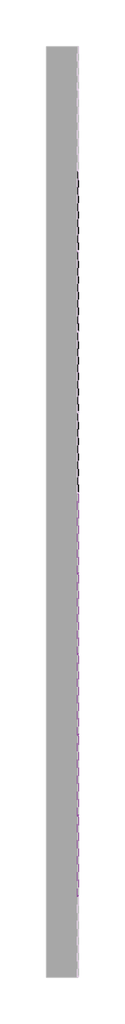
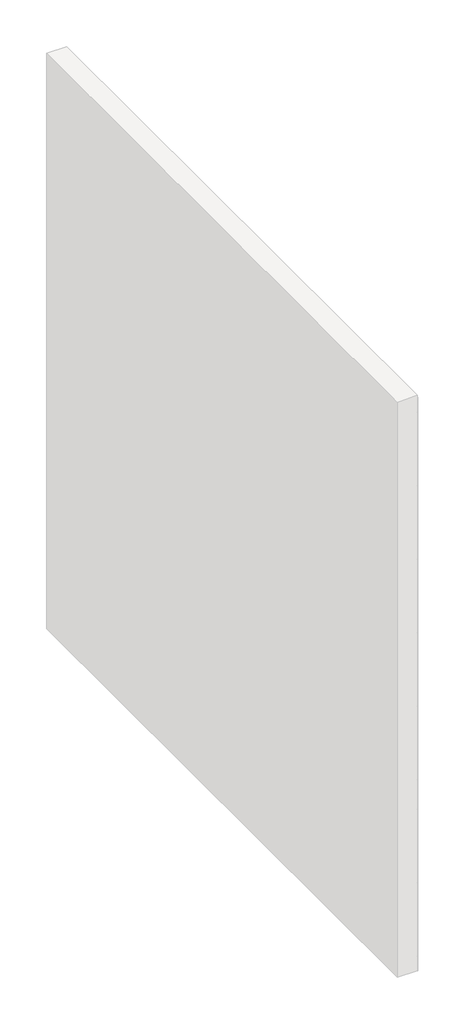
# One storey, part 6 of 45: 147 proxies.
"""IFC4 building model written with IfcOpenShell, lengths in millimetres."""

from ifc_helpers import new_model, si_unit, origin, place, context, project, spatial, transform, mapped, element, save
from components import generic_models_ab0f2c30

model = new_model("IFC4")

# Units and contexts
model_context = context("Model", 3, world=origin())
ifc_project = project(units=[si_unit("LENGTHUNIT", "METRE", prefix="MILLI")], contexts=[model_context])

# Site, building, storey
site = spatial("IfcSite", under=ifc_project)
building = spatial("IfcBuilding", under=site)
storey = spatial("IfcBuildingStorey", under=building, Name="PORTOBELLO - SHOWROOM", Elevation=0.0)

# Proxies
placement = place(None, origin())
generic_models_shape = generic_models_ab0f2c30(model_context)
element("IfcBuildingElementProxy", 1, Name="PBSHOP - HORIZONTES NEW YORK 6,5X23 : NEW YORK DOWNTOWN", ObjectType="PBSHOP - HORIZONTES NEW YORK 6,5X23 : NEW YORK DOWNTOWN", at=placement, inside=storey, context=model_context, shape_type="MappedRepresentation", body=[
    mapped(generic_models_shape, transform((63939.1036979, 7202.0036359, 34.5), x_axis=(0.0, 0.0, 1.0), y_axis=(0.0, -1.0, 0.0), z_axis=(1.0, 0.0, 0.0))),
])
element("IfcBuildingElementProxy", 2, Name="PBSHOP - HORIZONTES NEW YORK 6,5X23 : NEW YORK DOWNTOWN", ObjectType="PBSHOP - HORIZONTES NEW YORK 6,5X23 : NEW YORK DOWNTOWN", at=placement, inside=storey, context=model_context, shape_type="MappedRepresentation", body=[
    mapped(generic_models_shape, transform((63939.1036979, 7436.0036359, 34.5), x_axis=(0.0, 0.0, 1.0), y_axis=(0.0, -1.0, 0.0), z_axis=(1.0, 0.0, 0.0))),
])
element("IfcBuildingElementProxy", 3, Name="PBSHOP - HORIZONTES NEW YORK 6,5X23 : NEW YORK DOWNTOWN", ObjectType="PBSHOP - HORIZONTES NEW YORK 6,5X23 : NEW YORK DOWNTOWN", at=placement, inside=storey, context=model_context, shape_type="MappedRepresentation", body=[
    mapped(generic_models_shape, transform((63939.1036979, 7670.0036359, 34.5), x_axis=(0.0, 0.0, 1.0), y_axis=(0.0, -1.0, 0.0), z_axis=(1.0, 0.0, 0.0))),
])
element("IfcBuildingElementProxy", 4, Name="PBSHOP - HORIZONTES NEW YORK 6,5X23 : NEW YORK DOWNTOWN", ObjectType="PBSHOP - HORIZONTES NEW YORK 6,5X23 : NEW YORK DOWNTOWN", at=placement, inside=storey, context=model_context, shape_type="MappedRepresentation", body=[
    mapped(generic_models_shape, transform((63939.1036979, 7904.0036359, 34.5), x_axis=(0.0, 0.0, 1.0), y_axis=(0.0, -1.0, 0.0), z_axis=(1.0, 0.0, 0.0))),
])
element("IfcBuildingElementProxy", 5, Name="PBSHOP - HORIZONTES NEW YORK 6,5X23 : NEW YORK DOWNTOWN", ObjectType="PBSHOP - HORIZONTES NEW YORK 6,5X23 : NEW YORK DOWNTOWN", at=placement, inside=storey, context=model_context, shape_type="MappedRepresentation", body=[
    mapped(generic_models_shape, transform((63939.1036979, 7202.0036359, 103.5), x_axis=(0.0, 0.0, 1.0), y_axis=(0.0, -1.0, 0.0), z_axis=(1.0, 0.0, 0.0))),
])
element("IfcBuildingElementProxy", 6, Name="PBSHOP - HORIZONTES NEW YORK 6,5X23 : NEW YORK DOWNTOWN", ObjectType="PBSHOP - HORIZONTES NEW YORK 6,5X23 : NEW YORK DOWNTOWN", at=placement, inside=storey, context=model_context, shape_type="MappedRepresentation", body=[
    mapped(generic_models_shape, transform((63939.1036979, 7436.0036359, 103.5), x_axis=(0.0, 0.0, 1.0), y_axis=(0.0, -1.0, 0.0), z_axis=(1.0, 0.0, 0.0))),
])
element("IfcBuildingElementProxy", 7, Name="PBSHOP - HORIZONTES NEW YORK 6,5X23 : NEW YORK DOWNTOWN", ObjectType="PBSHOP - HORIZONTES NEW YORK 6,5X23 : NEW YORK DOWNTOWN", at=placement, inside=storey, context=model_context, shape_type="MappedRepresentation", body=[
    mapped(generic_models_shape, transform((63939.1036979, 7670.0036359, 103.5), x_axis=(0.0, 0.0, 1.0), y_axis=(0.0, -1.0, 0.0), z_axis=(1.0, 0.0, 0.0))),
])
element("IfcBuildingElementProxy", 8, Name="PBSHOP - HORIZONTES NEW YORK 6,5X23 : NEW YORK DOWNTOWN", ObjectType="PBSHOP - HORIZONTES NEW YORK 6,5X23 : NEW YORK DOWNTOWN", at=placement, inside=storey, context=model_context, shape_type="MappedRepresentation", body=[
    mapped(generic_models_shape, transform((63939.1036979, 7904.0036359, 103.5), x_axis=(0.0, 0.0, 1.0), y_axis=(0.0, -1.0, 0.0), z_axis=(1.0, 0.0, 0.0))),
])
element("IfcBuildingElementProxy", 9, Name="PBSHOP - HORIZONTES NEW YORK 6,5X23 : NEW YORK DOWNTOWN", ObjectType="PBSHOP - HORIZONTES NEW YORK 6,5X23 : NEW YORK DOWNTOWN", at=placement, inside=storey, context=model_context, shape_type="MappedRepresentation", body=[
    mapped(generic_models_shape, transform((63939.1036979, 7202.0036359, 172.5), x_axis=(0.0, 0.0, 1.0), y_axis=(0.0, -1.0, 0.0), z_axis=(1.0, 0.0, 0.0))),
])
element("IfcBuildingElementProxy", 10, Name="PBSHOP - HORIZONTES NEW YORK 6,5X23 : NEW YORK DOWNTOWN", ObjectType="PBSHOP - HORIZONTES NEW YORK 6,5X23 : NEW YORK DOWNTOWN", at=placement, inside=storey, context=model_context, shape_type="MappedRepresentation", body=[
    mapped(generic_models_shape, transform((63939.1036979, 7436.0036359, 172.5), x_axis=(0.0, 0.0, 1.0), y_axis=(0.0, -1.0, 0.0), z_axis=(1.0, 0.0, 0.0))),
])
element("IfcBuildingElementProxy", 11, Name="PBSHOP - HORIZONTES NEW YORK 6,5X23 : NEW YORK DOWNTOWN", ObjectType="PBSHOP - HORIZONTES NEW YORK 6,5X23 : NEW YORK DOWNTOWN", at=placement, inside=storey, context=model_context, shape_type="MappedRepresentation", body=[
    mapped(generic_models_shape, transform((63939.1036979, 7670.0036359, 172.5), x_axis=(0.0, 0.0, 1.0), y_axis=(0.0, -1.0, 0.0), z_axis=(1.0, 0.0, 0.0))),
])
element("IfcBuildingElementProxy", 12, Name="PBSHOP - HORIZONTES NEW YORK 6,5X23 : NEW YORK DOWNTOWN", ObjectType="PBSHOP - HORIZONTES NEW YORK 6,5X23 : NEW YORK DOWNTOWN", at=placement, inside=storey, context=model_context, shape_type="MappedRepresentation", body=[
    mapped(generic_models_shape, transform((63939.1036979, 7904.0036359, 172.5), x_axis=(0.0, 0.0, 1.0), y_axis=(0.0, -1.0, 0.0), z_axis=(1.0, 0.0, 0.0))),
])
element("IfcBuildingElementProxy", 13, Name="PBSHOP - HORIZONTES NEW YORK 6,5X23 : NEW YORK DOWNTOWN", ObjectType="PBSHOP - HORIZONTES NEW YORK 6,5X23 : NEW YORK DOWNTOWN", at=placement, inside=storey, context=model_context, shape_type="MappedRepresentation", body=[
    mapped(generic_models_shape, transform((63939.1036979, 7202.0036359, 241.5), x_axis=(0.0, 0.0, 1.0), y_axis=(0.0, -1.0, 0.0), z_axis=(1.0, 0.0, 0.0))),
])
element("IfcBuildingElementProxy", 14, Name="PBSHOP - HORIZONTES NEW YORK 6,5X23 : NEW YORK DOWNTOWN", ObjectType="PBSHOP - HORIZONTES NEW YORK 6,5X23 : NEW YORK DOWNTOWN", at=placement, inside=storey, context=model_context, shape_type="MappedRepresentation", body=[
    mapped(generic_models_shape, transform((63939.1036979, 7436.0036359, 241.5), x_axis=(0.0, 0.0, 1.0), y_axis=(0.0, -1.0, 0.0), z_axis=(1.0, 0.0, 0.0))),
])
element("IfcBuildingElementProxy", 15, Name="PBSHOP - HORIZONTES NEW YORK 6,5X23 : NEW YORK DOWNTOWN", ObjectType="PBSHOP - HORIZONTES NEW YORK 6,5X23 : NEW YORK DOWNTOWN", at=placement, inside=storey, context=model_context, shape_type="MappedRepresentation", body=[
    mapped(generic_models_shape, transform((63939.1036979, 7670.0036359, 241.5), x_axis=(0.0, 0.0, 1.0), y_axis=(0.0, -1.0, 0.0), z_axis=(1.0, 0.0, 0.0))),
])
element("IfcBuildingElementProxy", 16, Name="PBSHOP - HORIZONTES NEW YORK 6,5X23 : NEW YORK DOWNTOWN", ObjectType="PBSHOP - HORIZONTES NEW YORK 6,5X23 : NEW YORK DOWNTOWN", at=placement, inside=storey, context=model_context, shape_type="MappedRepresentation", body=[
    mapped(generic_models_shape, transform((63939.1036979, 7904.0036359, 241.5), x_axis=(0.0, 0.0, 1.0), y_axis=(0.0, -1.0, 0.0), z_axis=(1.0, 0.0, 0.0))),
])
element("IfcBuildingElementProxy", 17, Name="PBSHOP - HORIZONTES NEW YORK 6,5X23 : NEW YORK DOWNTOWN", ObjectType="PBSHOP - HORIZONTES NEW YORK 6,5X23 : NEW YORK DOWNTOWN", at=placement, inside=storey, context=model_context, shape_type="MappedRepresentation", body=[
    mapped(generic_models_shape, transform((63939.1036979, 7202.0036359, 310.5), x_axis=(0.0, 0.0, 1.0), y_axis=(0.0, -1.0, 0.0), z_axis=(1.0, 0.0, 0.0))),
])
element("IfcBuildingElementProxy", 18, Name="PBSHOP - HORIZONTES NEW YORK 6,5X23 : NEW YORK DOWNTOWN", ObjectType="PBSHOP - HORIZONTES NEW YORK 6,5X23 : NEW YORK DOWNTOWN", at=placement, inside=storey, context=model_context, shape_type="MappedRepresentation", body=[
    mapped(generic_models_shape, transform((63939.1036979, 7436.0036359, 310.5), x_axis=(0.0, 0.0, 1.0), y_axis=(0.0, -1.0, 0.0), z_axis=(1.0, 0.0, 0.0))),
])
element("IfcBuildingElementProxy", 19, Name="PBSHOP - HORIZONTES NEW YORK 6,5X23 : NEW YORK DOWNTOWN", ObjectType="PBSHOP - HORIZONTES NEW YORK 6,5X23 : NEW YORK DOWNTOWN", at=placement, inside=storey, context=model_context, shape_type="MappedRepresentation", body=[
    mapped(generic_models_shape, transform((63939.1036979, 7670.0036359, 310.5), x_axis=(0.0, 0.0, 1.0), y_axis=(0.0, -1.0, 0.0), z_axis=(1.0, 0.0, 0.0))),
])
element("IfcBuildingElementProxy", 20, Name="PBSHOP - HORIZONTES NEW YORK 6,5X23 : NEW YORK DOWNTOWN", ObjectType="PBSHOP - HORIZONTES NEW YORK 6,5X23 : NEW YORK DOWNTOWN", at=placement, inside=storey, context=model_context, shape_type="MappedRepresentation", body=[
    mapped(generic_models_shape, transform((63939.1036979, 7904.0036359, 310.5), x_axis=(0.0, 0.0, 1.0), y_axis=(0.0, -1.0, 0.0), z_axis=(1.0, 0.0, 0.0))),
])
element("IfcBuildingElementProxy", 21, Name="PBSHOP - HORIZONTES NEW YORK 6,5X23 : NEW YORK DOWNTOWN", ObjectType="PBSHOP - HORIZONTES NEW YORK 6,5X23 : NEW YORK DOWNTOWN", at=placement, inside=storey, context=model_context, shape_type="MappedRepresentation", body=[
    mapped(generic_models_shape, transform((63939.1036979, 7202.0036359, 379.5), x_axis=(0.0, 0.0, 1.0), y_axis=(0.0, -1.0, 0.0), z_axis=(1.0, 0.0, 0.0))),
])
element("IfcBuildingElementProxy", 22, Name="PBSHOP - HORIZONTES NEW YORK 6,5X23 : NEW YORK DOWNTOWN", ObjectType="PBSHOP - HORIZONTES NEW YORK 6,5X23 : NEW YORK DOWNTOWN", at=placement, inside=storey, context=model_context, shape_type="MappedRepresentation", body=[
    mapped(generic_models_shape, transform((63939.1036979, 7436.0036359, 379.5), x_axis=(0.0, 0.0, 1.0), y_axis=(0.0, -1.0, 0.0), z_axis=(1.0, 0.0, 0.0))),
])
element("IfcBuildingElementProxy", 23, Name="PBSHOP - HORIZONTES NEW YORK 6,5X23 : NEW YORK DOWNTOWN", ObjectType="PBSHOP - HORIZONTES NEW YORK 6,5X23 : NEW YORK DOWNTOWN", at=placement, inside=storey, context=model_context, shape_type="MappedRepresentation", body=[
    mapped(generic_models_shape, transform((63939.1036979, 7670.0036359, 379.5), x_axis=(0.0, 0.0, 1.0), y_axis=(0.0, -1.0, 0.0), z_axis=(1.0, 0.0, 0.0))),
])
element("IfcBuildingElementProxy", 24, Name="PBSHOP - HORIZONTES NEW YORK 6,5X23 : NEW YORK DOWNTOWN", ObjectType="PBSHOP - HORIZONTES NEW YORK 6,5X23 : NEW YORK DOWNTOWN", at=placement, inside=storey, context=model_context, shape_type="MappedRepresentation", body=[
    mapped(generic_models_shape, transform((63939.1036979, 7904.0036359, 379.5), x_axis=(0.0, 0.0, 1.0), y_axis=(0.0, -1.0, 0.0), z_axis=(1.0, 0.0, 0.0))),
])
element("IfcBuildingElementProxy", 25, Name="PBSHOP - HORIZONTES NEW YORK 6,5X23 : NEW YORK DOWNTOWN", ObjectType="PBSHOP - HORIZONTES NEW YORK 6,5X23 : NEW YORK DOWNTOWN", at=placement, inside=storey, context=model_context, shape_type="MappedRepresentation", body=[
    mapped(generic_models_shape, transform((63939.1036979, 7202.0036359, 448.5), x_axis=(0.0, 0.0, 1.0), y_axis=(0.0, -1.0, 0.0), z_axis=(1.0, 0.0, 0.0))),
])
element("IfcBuildingElementProxy", 26, Name="PBSHOP - HORIZONTES NEW YORK 6,5X23 : NEW YORK DOWNTOWN", ObjectType="PBSHOP - HORIZONTES NEW YORK 6,5X23 : NEW YORK DOWNTOWN", at=placement, inside=storey, context=model_context, shape_type="MappedRepresentation", body=[
    mapped(generic_models_shape, transform((63939.1036979, 7436.0036359, 448.5), x_axis=(0.0, 0.0, 1.0), y_axis=(0.0, -1.0, 0.0), z_axis=(1.0, 0.0, 0.0))),
])
element("IfcBuildingElementProxy", 27, Name="PBSHOP - HORIZONTES NEW YORK 6,5X23 : NEW YORK DOWNTOWN", ObjectType="PBSHOP - HORIZONTES NEW YORK 6,5X23 : NEW YORK DOWNTOWN", at=placement, inside=storey, context=model_context, shape_type="MappedRepresentation", body=[
    mapped(generic_models_shape, transform((63939.1036979, 7670.0036359, 448.5), x_axis=(0.0, 0.0, 1.0), y_axis=(0.0, -1.0, 0.0), z_axis=(1.0, 0.0, 0.0))),
])
element("IfcBuildingElementProxy", 28, Name="PBSHOP - HORIZONTES NEW YORK 6,5X23 : NEW YORK DOWNTOWN", ObjectType="PBSHOP - HORIZONTES NEW YORK 6,5X23 : NEW YORK DOWNTOWN", at=placement, inside=storey, context=model_context, shape_type="MappedRepresentation", body=[
    mapped(generic_models_shape, transform((63939.1036979, 7904.0036359, 448.5), x_axis=(0.0, 0.0, 1.0), y_axis=(0.0, -1.0, 0.0), z_axis=(1.0, 0.0, 0.0))),
])
element("IfcBuildingElementProxy", 29, Name="PBSHOP - HORIZONTES NEW YORK 6,5X23 : NEW YORK DOWNTOWN", ObjectType="PBSHOP - HORIZONTES NEW YORK 6,5X23 : NEW YORK DOWNTOWN", at=placement, inside=storey, context=model_context, shape_type="MappedRepresentation", body=[
    mapped(generic_models_shape, transform((63939.1036979, 7202.0036359, 517.5), x_axis=(0.0, 0.0, 1.0), y_axis=(0.0, -1.0, 0.0), z_axis=(1.0, 0.0, 0.0))),
])
element("IfcBuildingElementProxy", 30, Name="PBSHOP - HORIZONTES NEW YORK 6,5X23 : NEW YORK DOWNTOWN", ObjectType="PBSHOP - HORIZONTES NEW YORK 6,5X23 : NEW YORK DOWNTOWN", at=placement, inside=storey, context=model_context, shape_type="MappedRepresentation", body=[
    mapped(generic_models_shape, transform((63939.1036979, 7436.0036359, 517.5), x_axis=(0.0, 0.0, 1.0), y_axis=(0.0, -1.0, 0.0), z_axis=(1.0, 0.0, 0.0))),
])
element("IfcBuildingElementProxy", 31, Name="PBSHOP - HORIZONTES NEW YORK 6,5X23 : NEW YORK DOWNTOWN", ObjectType="PBSHOP - HORIZONTES NEW YORK 6,5X23 : NEW YORK DOWNTOWN", at=placement, inside=storey, context=model_context, shape_type="MappedRepresentation", body=[
    mapped(generic_models_shape, transform((63939.1036979, 7670.0036359, 517.5), x_axis=(0.0, 0.0, 1.0), y_axis=(0.0, -1.0, 0.0), z_axis=(1.0, 0.0, 0.0))),
])
element("IfcBuildingElementProxy", 32, Name="PBSHOP - HORIZONTES NEW YORK 6,5X23 : NEW YORK DOWNTOWN", ObjectType="PBSHOP - HORIZONTES NEW YORK 6,5X23 : NEW YORK DOWNTOWN", at=placement, inside=storey, context=model_context, shape_type="MappedRepresentation", body=[
    mapped(generic_models_shape, transform((63939.1036979, 7904.0036359, 517.5), x_axis=(0.0, 0.0, 1.0), y_axis=(0.0, -1.0, 0.0), z_axis=(1.0, 0.0, 0.0))),
])
element("IfcBuildingElementProxy", 33, Name="PBSHOP - HORIZONTES NEW YORK 6,5X23 : NEW YORK DOWNTOWN", ObjectType="PBSHOP - HORIZONTES NEW YORK 6,5X23 : NEW YORK DOWNTOWN", at=placement, inside=storey, context=model_context, shape_type="MappedRepresentation", body=[
    mapped(generic_models_shape, transform((63939.1036979, 7202.0036359, 586.5), x_axis=(0.0, 0.0, 1.0), y_axis=(0.0, -1.0, 0.0), z_axis=(1.0, 0.0, 0.0))),
])
element("IfcBuildingElementProxy", 34, Name="PBSHOP - HORIZONTES NEW YORK 6,5X23 : NEW YORK DOWNTOWN", ObjectType="PBSHOP - HORIZONTES NEW YORK 6,5X23 : NEW YORK DOWNTOWN", at=placement, inside=storey, context=model_context, shape_type="MappedRepresentation", body=[
    mapped(generic_models_shape, transform((63939.1036979, 7436.0036359, 586.5), x_axis=(0.0, 0.0, 1.0), y_axis=(0.0, -1.0, 0.0), z_axis=(1.0, 0.0, 0.0))),
])
element("IfcBuildingElementProxy", 35, Name="PBSHOP - HORIZONTES NEW YORK 6,5X23 : NEW YORK DOWNTOWN", ObjectType="PBSHOP - HORIZONTES NEW YORK 6,5X23 : NEW YORK DOWNTOWN", at=placement, inside=storey, context=model_context, shape_type="MappedRepresentation", body=[
    mapped(generic_models_shape, transform((63939.1036979, 7670.0036359, 586.5), x_axis=(0.0, 0.0, 1.0), y_axis=(0.0, -1.0, 0.0), z_axis=(1.0, 0.0, 0.0))),
])
element("IfcBuildingElementProxy", 36, Name="PBSHOP - HORIZONTES NEW YORK 6,5X23 : NEW YORK DOWNTOWN", ObjectType="PBSHOP - HORIZONTES NEW YORK 6,5X23 : NEW YORK DOWNTOWN", at=placement, inside=storey, context=model_context, shape_type="MappedRepresentation", body=[
    mapped(generic_models_shape, transform((63939.1036979, 7904.0036359, 586.5), x_axis=(0.0, 0.0, 1.0), y_axis=(0.0, -1.0, 0.0), z_axis=(1.0, 0.0, 0.0))),
])
element("IfcBuildingElementProxy", 37, Name="PBSHOP - HORIZONTES NEW YORK 6,5X23 : NEW YORK DOWNTOWN", ObjectType="PBSHOP - HORIZONTES NEW YORK 6,5X23 : NEW YORK DOWNTOWN", at=placement, inside=storey, context=model_context, shape_type="MappedRepresentation", body=[
    mapped(generic_models_shape, transform((63939.1036979, 7202.0036359, 655.5), x_axis=(0.0, 0.0, 1.0), y_axis=(0.0, -1.0, 0.0), z_axis=(1.0, 0.0, 0.0))),
])
element("IfcBuildingElementProxy", 38, Name="PBSHOP - HORIZONTES NEW YORK 6,5X23 : NEW YORK DOWNTOWN", ObjectType="PBSHOP - HORIZONTES NEW YORK 6,5X23 : NEW YORK DOWNTOWN", at=placement, inside=storey, context=model_context, shape_type="MappedRepresentation", body=[
    mapped(generic_models_shape, transform((63939.1036979, 7436.0036359, 655.5), x_axis=(0.0, 0.0, 1.0), y_axis=(0.0, -1.0, 0.0), z_axis=(1.0, 0.0, 0.0))),
])
element("IfcBuildingElementProxy", 39, Name="PBSHOP - HORIZONTES NEW YORK 6,5X23 : NEW YORK DOWNTOWN", ObjectType="PBSHOP - HORIZONTES NEW YORK 6,5X23 : NEW YORK DOWNTOWN", at=placement, inside=storey, context=model_context, shape_type="MappedRepresentation", body=[
    mapped(generic_models_shape, transform((63939.1036979, 7670.0036359, 655.5), x_axis=(0.0, 0.0, 1.0), y_axis=(0.0, -1.0, 0.0), z_axis=(1.0, 0.0, 0.0))),
])
element("IfcBuildingElementProxy", 40, Name="PBSHOP - HORIZONTES NEW YORK 6,5X23 : NEW YORK DOWNTOWN", ObjectType="PBSHOP - HORIZONTES NEW YORK 6,5X23 : NEW YORK DOWNTOWN", at=placement, inside=storey, context=model_context, shape_type="MappedRepresentation", body=[
    mapped(generic_models_shape, transform((63939.1036979, 7904.0036359, 655.5), x_axis=(0.0, 0.0, 1.0), y_axis=(0.0, -1.0, 0.0), z_axis=(1.0, 0.0, 0.0))),
])
element("IfcBuildingElementProxy", 41, Name="PBSHOP - HORIZONTES NEW YORK 6,5X23 : NEW YORK DOWNTOWN", ObjectType="PBSHOP - HORIZONTES NEW YORK 6,5X23 : NEW YORK DOWNTOWN", at=placement, inside=storey, context=model_context, shape_type="MappedRepresentation", body=[
    mapped(generic_models_shape, transform((63939.1036979, 7202.0036359, 724.5), x_axis=(0.0, 0.0, 1.0), y_axis=(0.0, -1.0, 0.0), z_axis=(1.0, 0.0, 0.0))),
])
element("IfcBuildingElementProxy", 42, Name="PBSHOP - HORIZONTES NEW YORK 6,5X23 : NEW YORK DOWNTOWN", ObjectType="PBSHOP - HORIZONTES NEW YORK 6,5X23 : NEW YORK DOWNTOWN", at=placement, inside=storey, context=model_context, shape_type="MappedRepresentation", body=[
    mapped(generic_models_shape, transform((63939.1036979, 7436.0036359, 724.5), x_axis=(0.0, 0.0, 1.0), y_axis=(0.0, -1.0, 0.0), z_axis=(1.0, 0.0, 0.0))),
])
element("IfcBuildingElementProxy", 43, Name="PBSHOP - HORIZONTES NEW YORK 6,5X23 : NEW YORK DOWNTOWN", ObjectType="PBSHOP - HORIZONTES NEW YORK 6,5X23 : NEW YORK DOWNTOWN", at=placement, inside=storey, context=model_context, shape_type="MappedRepresentation", body=[
    mapped(generic_models_shape, transform((63939.1036979, 7670.0036359, 724.5), x_axis=(0.0, 0.0, 1.0), y_axis=(0.0, -1.0, 0.0), z_axis=(1.0, 0.0, 0.0))),
])
element("IfcBuildingElementProxy", 44, Name="PBSHOP - HORIZONTES NEW YORK 6,5X23 : NEW YORK DOWNTOWN", ObjectType="PBSHOP - HORIZONTES NEW YORK 6,5X23 : NEW YORK DOWNTOWN", at=placement, inside=storey, context=model_context, shape_type="MappedRepresentation", body=[
    mapped(generic_models_shape, transform((63939.1036979, 7904.0036359, 724.5), x_axis=(0.0, 0.0, 1.0), y_axis=(0.0, -1.0, 0.0), z_axis=(1.0, 0.0, 0.0))),
])
element("IfcBuildingElementProxy", 45, Name="PBSHOP - HORIZONTES NEW YORK 6,5X23 : NEW YORK DOWNTOWN", ObjectType="PBSHOP - HORIZONTES NEW YORK 6,5X23 : NEW YORK DOWNTOWN", at=placement, inside=storey, context=model_context, shape_type="MappedRepresentation", body=[
    mapped(generic_models_shape, transform((63939.1036979, 7202.0036359, 793.5), x_axis=(0.0, 0.0, 1.0), y_axis=(0.0, -1.0, 0.0), z_axis=(1.0, 0.0, 0.0))),
])
element("IfcBuildingElementProxy", 46, Name="PBSHOP - HORIZONTES NEW YORK 6,5X23 : NEW YORK DOWNTOWN", ObjectType="PBSHOP - HORIZONTES NEW YORK 6,5X23 : NEW YORK DOWNTOWN", at=placement, inside=storey, context=model_context, shape_type="MappedRepresentation", body=[
    mapped(generic_models_shape, transform((63939.1036979, 7436.0036359, 793.5), x_axis=(0.0, 0.0, 1.0), y_axis=(0.0, -1.0, 0.0), z_axis=(1.0, 0.0, 0.0))),
])
element("IfcBuildingElementProxy", 47, Name="PBSHOP - HORIZONTES NEW YORK 6,5X23 : NEW YORK DOWNTOWN", ObjectType="PBSHOP - HORIZONTES NEW YORK 6,5X23 : NEW YORK DOWNTOWN", at=placement, inside=storey, context=model_context, shape_type="MappedRepresentation", body=[
    mapped(generic_models_shape, transform((63939.1036979, 7670.0036359, 793.5), x_axis=(0.0, 0.0, 1.0), y_axis=(0.0, -1.0, 0.0), z_axis=(1.0, 0.0, 0.0))),
])
element("IfcBuildingElementProxy", 48, Name="PBSHOP - HORIZONTES NEW YORK 6,5X23 : NEW YORK DOWNTOWN", ObjectType="PBSHOP - HORIZONTES NEW YORK 6,5X23 : NEW YORK DOWNTOWN", at=placement, inside=storey, context=model_context, shape_type="MappedRepresentation", body=[
    mapped(generic_models_shape, transform((63939.1036979, 7904.0036359, 793.5), x_axis=(0.0, 0.0, 1.0), y_axis=(0.0, -1.0, 0.0), z_axis=(1.0, 0.0, 0.0))),
])
element("IfcBuildingElementProxy", 49, Name="PBSHOP - HORIZONTES NEW YORK 6,5X23 : NEW YORK DOWNTOWN", ObjectType="PBSHOP - HORIZONTES NEW YORK 6,5X23 : NEW YORK DOWNTOWN", at=placement, inside=storey, context=model_context, shape_type="MappedRepresentation", body=[
    mapped(generic_models_shape, transform((63939.1036979, 7202.0036359, 862.5), x_axis=(0.0, 0.0, 1.0), y_axis=(0.0, -1.0, 0.0), z_axis=(1.0, 0.0, 0.0))),
])
element("IfcBuildingElementProxy", 50, Name="PBSHOP - HORIZONTES NEW YORK 6,5X23 : NEW YORK DOWNTOWN", ObjectType="PBSHOP - HORIZONTES NEW YORK 6,5X23 : NEW YORK DOWNTOWN", at=placement, inside=storey, context=model_context, shape_type="MappedRepresentation", body=[
    mapped(generic_models_shape, transform((63939.1036979, 7436.0036359, 862.5), x_axis=(0.0, 0.0, 1.0), y_axis=(0.0, -1.0, 0.0), z_axis=(1.0, 0.0, 0.0))),
])
element("IfcBuildingElementProxy", 51, Name="PBSHOP - HORIZONTES NEW YORK 6,5X23 : NEW YORK DOWNTOWN", ObjectType="PBSHOP - HORIZONTES NEW YORK 6,5X23 : NEW YORK DOWNTOWN", at=placement, inside=storey, context=model_context, shape_type="MappedRepresentation", body=[
    mapped(generic_models_shape, transform((63939.1036979, 7670.0036359, 862.5), x_axis=(0.0, 0.0, 1.0), y_axis=(0.0, -1.0, 0.0), z_axis=(1.0, 0.0, 0.0))),
])
element("IfcBuildingElementProxy", 52, Name="PBSHOP - HORIZONTES NEW YORK 6,5X23 : NEW YORK DOWNTOWN", ObjectType="PBSHOP - HORIZONTES NEW YORK 6,5X23 : NEW YORK DOWNTOWN", at=placement, inside=storey, context=model_context, shape_type="MappedRepresentation", body=[
    mapped(generic_models_shape, transform((63939.1036979, 7904.0036359, 862.5), x_axis=(0.0, 0.0, 1.0), y_axis=(0.0, -1.0, 0.0), z_axis=(1.0, 0.0, 0.0))),
])
element("IfcBuildingElementProxy", 53, Name="PBSHOP - HORIZONTES NEW YORK 6,5X23 : NEW YORK DOWNTOWN", ObjectType="PBSHOP - HORIZONTES NEW YORK 6,5X23 : NEW YORK DOWNTOWN", at=placement, inside=storey, context=model_context, shape_type="MappedRepresentation", body=[
    mapped(generic_models_shape, transform((63939.1036979, 7202.0036359, 931.5), x_axis=(0.0, 0.0, 1.0), y_axis=(0.0, -1.0, 0.0), z_axis=(1.0, 0.0, 0.0))),
])
element("IfcBuildingElementProxy", 54, Name="PBSHOP - HORIZONTES NEW YORK 6,5X23 : NEW YORK DOWNTOWN", ObjectType="PBSHOP - HORIZONTES NEW YORK 6,5X23 : NEW YORK DOWNTOWN", at=placement, inside=storey, context=model_context, shape_type="MappedRepresentation", body=[
    mapped(generic_models_shape, transform((63939.1036979, 7436.0036359, 931.5), x_axis=(0.0, 0.0, 1.0), y_axis=(0.0, -1.0, 0.0), z_axis=(1.0, 0.0, 0.0))),
])
element("IfcBuildingElementProxy", 55, Name="PBSHOP - HORIZONTES NEW YORK 6,5X23 : NEW YORK DOWNTOWN", ObjectType="PBSHOP - HORIZONTES NEW YORK 6,5X23 : NEW YORK DOWNTOWN", at=placement, inside=storey, context=model_context, shape_type="MappedRepresentation", body=[
    mapped(generic_models_shape, transform((63939.1036979, 7670.0036359, 931.5), x_axis=(0.0, 0.0, 1.0), y_axis=(0.0, -1.0, 0.0), z_axis=(1.0, 0.0, 0.0))),
])
element("IfcBuildingElementProxy", 56, Name="PBSHOP - HORIZONTES NEW YORK 6,5X23 : NEW YORK DOWNTOWN", ObjectType="PBSHOP - HORIZONTES NEW YORK 6,5X23 : NEW YORK DOWNTOWN", at=placement, inside=storey, context=model_context, shape_type="MappedRepresentation", body=[
    mapped(generic_models_shape, transform((63939.1036979, 7904.0036359, 931.5), x_axis=(0.0, 0.0, 1.0), y_axis=(0.0, -1.0, 0.0), z_axis=(1.0, 0.0, 0.0))),
])
element("IfcBuildingElementProxy", 57, Name="PBSHOP - HORIZONTES NEW YORK 6,5X23 : NEW YORK DOWNTOWN", ObjectType="PBSHOP - HORIZONTES NEW YORK 6,5X23 : NEW YORK DOWNTOWN", at=placement, inside=storey, context=model_context, shape_type="MappedRepresentation", body=[
    mapped(generic_models_shape, transform((63939.1036979, 7202.0036359, 1000.5), x_axis=(0.0, 0.0, 1.0), y_axis=(0.0, -1.0, 0.0), z_axis=(1.0, 0.0, 0.0))),
])
element("IfcBuildingElementProxy", 58, Name="PBSHOP - HORIZONTES NEW YORK 6,5X23 : NEW YORK DOWNTOWN", ObjectType="PBSHOP - HORIZONTES NEW YORK 6,5X23 : NEW YORK DOWNTOWN", at=placement, inside=storey, context=model_context, shape_type="MappedRepresentation", body=[
    mapped(generic_models_shape, transform((63939.1036979, 7436.0036359, 1000.5), x_axis=(0.0, 0.0, 1.0), y_axis=(0.0, -1.0, 0.0), z_axis=(1.0, 0.0, 0.0))),
])
element("IfcBuildingElementProxy", 59, Name="PBSHOP - HORIZONTES NEW YORK 6,5X23 : NEW YORK DOWNTOWN", ObjectType="PBSHOP - HORIZONTES NEW YORK 6,5X23 : NEW YORK DOWNTOWN", at=placement, inside=storey, context=model_context, shape_type="MappedRepresentation", body=[
    mapped(generic_models_shape, transform((63939.1036979, 7670.0036359, 1000.5), x_axis=(0.0, 0.0, 1.0), y_axis=(0.0, -1.0, 0.0), z_axis=(1.0, 0.0, 0.0))),
])
element("IfcBuildingElementProxy", 60, Name="PBSHOP - HORIZONTES NEW YORK 6,5X23 : NEW YORK DOWNTOWN", ObjectType="PBSHOP - HORIZONTES NEW YORK 6,5X23 : NEW YORK DOWNTOWN", at=placement, inside=storey, context=model_context, shape_type="MappedRepresentation", body=[
    mapped(generic_models_shape, transform((63939.1036979, 7904.0036359, 1000.5), x_axis=(0.0, 0.0, 1.0), y_axis=(0.0, -1.0, 0.0), z_axis=(1.0, 0.0, 0.0))),
])
element("IfcBuildingElementProxy", 61, Name="PBSHOP - HORIZONTES NEW YORK 6,5X23 : NEW YORK DOWNTOWN", ObjectType="PBSHOP - HORIZONTES NEW YORK 6,5X23 : NEW YORK DOWNTOWN", at=placement, inside=storey, context=model_context, shape_type="MappedRepresentation", body=[
    mapped(generic_models_shape, transform((63939.1036979, 7202.0036359, 1069.5), x_axis=(0.0, 0.0, 1.0), y_axis=(0.0, -1.0, 0.0), z_axis=(1.0, 0.0, 0.0))),
])
element("IfcBuildingElementProxy", 62, Name="PBSHOP - HORIZONTES NEW YORK 6,5X23 : NEW YORK DOWNTOWN", ObjectType="PBSHOP - HORIZONTES NEW YORK 6,5X23 : NEW YORK DOWNTOWN", at=placement, inside=storey, context=model_context, shape_type="MappedRepresentation", body=[
    mapped(generic_models_shape, transform((63939.1036979, 7436.0036359, 1069.5), x_axis=(0.0, 0.0, 1.0), y_axis=(0.0, -1.0, 0.0), z_axis=(1.0, 0.0, 0.0))),
])
element("IfcBuildingElementProxy", 63, Name="PBSHOP - HORIZONTES NEW YORK 6,5X23 : NEW YORK DOWNTOWN", ObjectType="PBSHOP - HORIZONTES NEW YORK 6,5X23 : NEW YORK DOWNTOWN", at=placement, inside=storey, context=model_context, shape_type="MappedRepresentation", body=[
    mapped(generic_models_shape, transform((63939.1036979, 7670.0036359, 1069.5), x_axis=(0.0, 0.0, 1.0), y_axis=(0.0, -1.0, 0.0), z_axis=(1.0, 0.0, 0.0))),
])
element("IfcBuildingElementProxy", 64, Name="PBSHOP - HORIZONTES NEW YORK 6,5X23 : NEW YORK DOWNTOWN", ObjectType="PBSHOP - HORIZONTES NEW YORK 6,5X23 : NEW YORK DOWNTOWN", at=placement, inside=storey, context=model_context, shape_type="MappedRepresentation", body=[
    mapped(generic_models_shape, transform((63939.1036979, 7904.0036359, 1069.5), x_axis=(0.0, 0.0, 1.0), y_axis=(0.0, -1.0, 0.0), z_axis=(1.0, 0.0, 0.0))),
])
element("IfcBuildingElementProxy", 65, Name="PBSHOP - HORIZONTES NEW YORK 6,5X23 : NEW YORK DOWNTOWN", ObjectType="PBSHOP - HORIZONTES NEW YORK 6,5X23 : NEW YORK DOWNTOWN", at=placement, inside=storey, context=model_context, shape_type="MappedRepresentation", body=[
    mapped(generic_models_shape, transform((63939.1036979, 7202.0036359, 1138.5), x_axis=(0.0, 0.0, 1.0), y_axis=(0.0, -1.0, 0.0), z_axis=(1.0, 0.0, 0.0))),
])
element("IfcBuildingElementProxy", 66, Name="PBSHOP - HORIZONTES NEW YORK 6,5X23 : NEW YORK DOWNTOWN", ObjectType="PBSHOP - HORIZONTES NEW YORK 6,5X23 : NEW YORK DOWNTOWN", at=placement, inside=storey, context=model_context, shape_type="MappedRepresentation", body=[
    mapped(generic_models_shape, transform((63939.1036979, 7436.0036359, 1138.5), x_axis=(0.0, 0.0, 1.0), y_axis=(0.0, -1.0, 0.0), z_axis=(1.0, 0.0, 0.0))),
])
element("IfcBuildingElementProxy", 67, Name="PBSHOP - HORIZONTES NEW YORK 6,5X23 : NEW YORK DOWNTOWN", ObjectType="PBSHOP - HORIZONTES NEW YORK 6,5X23 : NEW YORK DOWNTOWN", at=placement, inside=storey, context=model_context, shape_type="MappedRepresentation", body=[
    mapped(generic_models_shape, transform((63939.1036979, 7670.0036359, 1138.5), x_axis=(0.0, 0.0, 1.0), y_axis=(0.0, -1.0, 0.0), z_axis=(1.0, 0.0, 0.0))),
])
element("IfcBuildingElementProxy", 68, Name="PBSHOP - HORIZONTES NEW YORK 6,5X23 : NEW YORK DOWNTOWN", ObjectType="PBSHOP - HORIZONTES NEW YORK 6,5X23 : NEW YORK DOWNTOWN", at=placement, inside=storey, context=model_context, shape_type="MappedRepresentation", body=[
    mapped(generic_models_shape, transform((63939.1036979, 7904.0036359, 1138.5), x_axis=(0.0, 0.0, 1.0), y_axis=(0.0, -1.0, 0.0), z_axis=(1.0, 0.0, 0.0))),
])
element("IfcBuildingElementProxy", 69, Name="PBSHOP - HORIZONTES NEW YORK 6,5X23 : NEW YORK DOWNTOWN", ObjectType="PBSHOP - HORIZONTES NEW YORK 6,5X23 : NEW YORK DOWNTOWN", at=placement, inside=storey, context=model_context, shape_type="MappedRepresentation", body=[
    mapped(generic_models_shape, transform((63939.1036979, 7202.0036359, 1207.5), x_axis=(0.0, 0.0, 1.0), y_axis=(0.0, -1.0, 0.0), z_axis=(1.0, 0.0, 0.0))),
])
element("IfcBuildingElementProxy", 70, Name="PBSHOP - HORIZONTES NEW YORK 6,5X23 : NEW YORK DOWNTOWN", ObjectType="PBSHOP - HORIZONTES NEW YORK 6,5X23 : NEW YORK DOWNTOWN", at=placement, inside=storey, context=model_context, shape_type="MappedRepresentation", body=[
    mapped(generic_models_shape, transform((63939.1036979, 7436.0036359, 1207.5), x_axis=(0.0, 0.0, 1.0), y_axis=(0.0, -1.0, 0.0), z_axis=(1.0, 0.0, 0.0))),
])
element("IfcBuildingElementProxy", 71, Name="PBSHOP - HORIZONTES NEW YORK 6,5X23 : NEW YORK DOWNTOWN", ObjectType="PBSHOP - HORIZONTES NEW YORK 6,5X23 : NEW YORK DOWNTOWN", at=placement, inside=storey, context=model_context, shape_type="MappedRepresentation", body=[
    mapped(generic_models_shape, transform((63939.1036979, 7670.0036359, 1207.5), x_axis=(0.0, 0.0, 1.0), y_axis=(0.0, -1.0, 0.0), z_axis=(1.0, 0.0, 0.0))),
])
element("IfcBuildingElementProxy", 72, Name="PBSHOP - HORIZONTES NEW YORK 6,5X23 : NEW YORK DOWNTOWN", ObjectType="PBSHOP - HORIZONTES NEW YORK 6,5X23 : NEW YORK DOWNTOWN", at=placement, inside=storey, context=model_context, shape_type="MappedRepresentation", body=[
    mapped(generic_models_shape, transform((63939.1036979, 7904.0036359, 1207.5), x_axis=(0.0, 0.0, 1.0), y_axis=(0.0, -1.0, 0.0), z_axis=(1.0, 0.0, 0.0))),
])
element("IfcBuildingElementProxy", 73, Name="PBSHOP - HORIZONTES NEW YORK 6,5X23 : NEW YORK DOWNTOWN", ObjectType="PBSHOP - HORIZONTES NEW YORK 6,5X23 : NEW YORK DOWNTOWN", at=placement, inside=storey, context=model_context, shape_type="MappedRepresentation", body=[
    mapped(generic_models_shape, transform((63939.1036979, 7202.0036359, 1276.5), x_axis=(0.0, 0.0, 1.0), y_axis=(0.0, -1.0, 0.0), z_axis=(1.0, 0.0, 0.0))),
])
element("IfcBuildingElementProxy", 74, Name="PBSHOP - HORIZONTES NEW YORK 6,5X23 : NEW YORK DOWNTOWN", ObjectType="PBSHOP - HORIZONTES NEW YORK 6,5X23 : NEW YORK DOWNTOWN", at=placement, inside=storey, context=model_context, shape_type="MappedRepresentation", body=[
    mapped(generic_models_shape, transform((63939.1036979, 7436.0036359, 1276.5), x_axis=(0.0, 0.0, 1.0), y_axis=(0.0, -1.0, 0.0), z_axis=(1.0, 0.0, 0.0))),
])
element("IfcBuildingElementProxy", 75, Name="PBSHOP - HORIZONTES NEW YORK 6,5X23 : NEW YORK DOWNTOWN", ObjectType="PBSHOP - HORIZONTES NEW YORK 6,5X23 : NEW YORK DOWNTOWN", at=placement, inside=storey, context=model_context, shape_type="MappedRepresentation", body=[
    mapped(generic_models_shape, transform((63939.1036979, 7670.0036359, 1276.5), x_axis=(0.0, 0.0, 1.0), y_axis=(0.0, -1.0, 0.0), z_axis=(1.0, 0.0, 0.0))),
])
element("IfcBuildingElementProxy", 76, Name="PBSHOP - HORIZONTES NEW YORK 6,5X23 : NEW YORK DOWNTOWN", ObjectType="PBSHOP - HORIZONTES NEW YORK 6,5X23 : NEW YORK DOWNTOWN", at=placement, inside=storey, context=model_context, shape_type="MappedRepresentation", body=[
    mapped(generic_models_shape, transform((63939.1036979, 7904.0036359, 1276.5), x_axis=(0.0, 0.0, 1.0), y_axis=(0.0, -1.0, 0.0), z_axis=(1.0, 0.0, 0.0))),
])
element("IfcBuildingElementProxy", 77, Name="PBSHOP - HORIZONTES NEW YORK 6,5X23 : NEW YORK DOWNTOWN", ObjectType="PBSHOP - HORIZONTES NEW YORK 6,5X23 : NEW YORK DOWNTOWN", at=placement, inside=storey, context=model_context, shape_type="MappedRepresentation", body=[
    mapped(generic_models_shape, transform((63939.1036979, 7202.0036359, 1345.5), x_axis=(0.0, 0.0, 1.0), y_axis=(0.0, -1.0, 0.0), z_axis=(1.0, 0.0, 0.0))),
])
element("IfcBuildingElementProxy", 78, Name="PBSHOP - HORIZONTES NEW YORK 6,5X23 : NEW YORK DOWNTOWN", ObjectType="PBSHOP - HORIZONTES NEW YORK 6,5X23 : NEW YORK DOWNTOWN", at=placement, inside=storey, context=model_context, shape_type="MappedRepresentation", body=[
    mapped(generic_models_shape, transform((63939.1036979, 7436.0036359, 1345.5), x_axis=(0.0, 0.0, 1.0), y_axis=(0.0, -1.0, 0.0), z_axis=(1.0, 0.0, 0.0))),
])
element("IfcBuildingElementProxy", 79, Name="PBSHOP - HORIZONTES NEW YORK 6,5X23 : NEW YORK DOWNTOWN", ObjectType="PBSHOP - HORIZONTES NEW YORK 6,5X23 : NEW YORK DOWNTOWN", at=placement, inside=storey, context=model_context, shape_type="MappedRepresentation", body=[
    mapped(generic_models_shape, transform((63939.1036979, 7670.0036359, 1345.5), x_axis=(0.0, 0.0, 1.0), y_axis=(0.0, -1.0, 0.0), z_axis=(1.0, 0.0, 0.0))),
])
element("IfcBuildingElementProxy", 80, Name="PBSHOP - HORIZONTES NEW YORK 6,5X23 : NEW YORK DOWNTOWN", ObjectType="PBSHOP - HORIZONTES NEW YORK 6,5X23 : NEW YORK DOWNTOWN", at=placement, inside=storey, context=model_context, shape_type="MappedRepresentation", body=[
    mapped(generic_models_shape, transform((63939.1036979, 7904.0036359, 1345.5), x_axis=(0.0, 0.0, 1.0), y_axis=(0.0, -1.0, 0.0), z_axis=(1.0, 0.0, 0.0))),
])
element("IfcBuildingElementProxy", 81, Name="PBSHOP - HORIZONTES NEW YORK 6,5X23 : NEW YORK DOWNTOWN", ObjectType="PBSHOP - HORIZONTES NEW YORK 6,5X23 : NEW YORK DOWNTOWN", at=placement, inside=storey, context=model_context, shape_type="MappedRepresentation", body=[
    mapped(generic_models_shape, transform((63939.1036979, 7202.0036359, 1414.5), x_axis=(0.0, 0.0, 1.0), y_axis=(0.0, -1.0, 0.0), z_axis=(1.0, 0.0, 0.0))),
])
element("IfcBuildingElementProxy", 82, Name="PBSHOP - HORIZONTES NEW YORK 6,5X23 : NEW YORK DOWNTOWN", ObjectType="PBSHOP - HORIZONTES NEW YORK 6,5X23 : NEW YORK DOWNTOWN", at=placement, inside=storey, context=model_context, shape_type="MappedRepresentation", body=[
    mapped(generic_models_shape, transform((63939.1036979, 7436.0036359, 1414.5), x_axis=(0.0, 0.0, 1.0), y_axis=(0.0, -1.0, 0.0), z_axis=(1.0, 0.0, 0.0))),
])
element("IfcBuildingElementProxy", 83, Name="PBSHOP - HORIZONTES NEW YORK 6,5X23 : NEW YORK DOWNTOWN", ObjectType="PBSHOP - HORIZONTES NEW YORK 6,5X23 : NEW YORK DOWNTOWN", at=placement, inside=storey, context=model_context, shape_type="MappedRepresentation", body=[
    mapped(generic_models_shape, transform((63939.1036979, 7670.0036359, 1414.5), x_axis=(0.0, 0.0, 1.0), y_axis=(0.0, -1.0, 0.0), z_axis=(1.0, 0.0, 0.0))),
])
element("IfcBuildingElementProxy", 84, Name="PBSHOP - HORIZONTES NEW YORK 6,5X23 : NEW YORK DOWNTOWN", ObjectType="PBSHOP - HORIZONTES NEW YORK 6,5X23 : NEW YORK DOWNTOWN", at=placement, inside=storey, context=model_context, shape_type="MappedRepresentation", body=[
    mapped(generic_models_shape, transform((63939.1036979, 7904.0036359, 1414.5), x_axis=(0.0, 0.0, 1.0), y_axis=(0.0, -1.0, 0.0), z_axis=(1.0, 0.0, 0.0))),
])
element("IfcBuildingElementProxy", 85, Name="PBSHOP - HORIZONTES NEW YORK 6,5X23 : NEW YORK DOWNTOWN", ObjectType="PBSHOP - HORIZONTES NEW YORK 6,5X23 : NEW YORK DOWNTOWN", at=placement, inside=storey, context=model_context, shape_type="MappedRepresentation", body=[
    mapped(generic_models_shape, transform((63939.1036979, 7202.0036359, 1483.5), x_axis=(0.0, 0.0, 1.0), y_axis=(0.0, -1.0, 0.0), z_axis=(1.0, 0.0, 0.0))),
])
element("IfcBuildingElementProxy", 86, Name="PBSHOP - HORIZONTES NEW YORK 6,5X23 : NEW YORK DOWNTOWN", ObjectType="PBSHOP - HORIZONTES NEW YORK 6,5X23 : NEW YORK DOWNTOWN", at=placement, inside=storey, context=model_context, shape_type="MappedRepresentation", body=[
    mapped(generic_models_shape, transform((63939.1036979, 7436.0036359, 1483.5), x_axis=(0.0, 0.0, 1.0), y_axis=(0.0, -1.0, 0.0), z_axis=(1.0, 0.0, 0.0))),
])
element("IfcBuildingElementProxy", 87, Name="PBSHOP - HORIZONTES NEW YORK 6,5X23 : NEW YORK DOWNTOWN", ObjectType="PBSHOP - HORIZONTES NEW YORK 6,5X23 : NEW YORK DOWNTOWN", at=placement, inside=storey, context=model_context, shape_type="MappedRepresentation", body=[
    mapped(generic_models_shape, transform((63939.1036979, 7670.0036359, 1483.5), x_axis=(0.0, 0.0, 1.0), y_axis=(0.0, -1.0, 0.0), z_axis=(1.0, 0.0, 0.0))),
])
element("IfcBuildingElementProxy", 88, Name="PBSHOP - HORIZONTES NEW YORK 6,5X23 : NEW YORK DOWNTOWN", ObjectType="PBSHOP - HORIZONTES NEW YORK 6,5X23 : NEW YORK DOWNTOWN", at=placement, inside=storey, context=model_context, shape_type="MappedRepresentation", body=[
    mapped(generic_models_shape, transform((63939.1036979, 7904.0036359, 1483.5), x_axis=(0.0, 0.0, 1.0), y_axis=(0.0, -1.0, 0.0), z_axis=(1.0, 0.0, 0.0))),
])
element("IfcBuildingElementProxy", 89, Name="PBSHOP - HORIZONTES NEW YORK 6,5X23 : NEW YORK DOWNTOWN", ObjectType="PBSHOP - HORIZONTES NEW YORK 6,5X23 : NEW YORK DOWNTOWN", at=placement, inside=storey, context=model_context, shape_type="MappedRepresentation", body=[
    mapped(generic_models_shape, transform((63939.1036979, 7202.0036359, 1552.5), x_axis=(0.0, 0.0, 1.0), y_axis=(0.0, -1.0, 0.0), z_axis=(1.0, 0.0, 0.0))),
])
element("IfcBuildingElementProxy", 90, Name="PBSHOP - HORIZONTES NEW YORK 6,5X23 : NEW YORK DOWNTOWN", ObjectType="PBSHOP - HORIZONTES NEW YORK 6,5X23 : NEW YORK DOWNTOWN", at=placement, inside=storey, context=model_context, shape_type="MappedRepresentation", body=[
    mapped(generic_models_shape, transform((63939.1036979, 7436.0036359, 1552.5), x_axis=(0.0, 0.0, 1.0), y_axis=(0.0, -1.0, 0.0), z_axis=(1.0, 0.0, 0.0))),
])
element("IfcBuildingElementProxy", 91, Name="PBSHOP - HORIZONTES NEW YORK 6,5X23 : NEW YORK DOWNTOWN", ObjectType="PBSHOP - HORIZONTES NEW YORK 6,5X23 : NEW YORK DOWNTOWN", at=placement, inside=storey, context=model_context, shape_type="MappedRepresentation", body=[
    mapped(generic_models_shape, transform((63939.1036979, 7670.0036359, 1552.5), x_axis=(0.0, 0.0, 1.0), y_axis=(0.0, -1.0, 0.0), z_axis=(1.0, 0.0, 0.0))),
])
element("IfcBuildingElementProxy", 92, Name="PBSHOP - HORIZONTES NEW YORK 6,5X23 : NEW YORK DOWNTOWN", ObjectType="PBSHOP - HORIZONTES NEW YORK 6,5X23 : NEW YORK DOWNTOWN", at=placement, inside=storey, context=model_context, shape_type="MappedRepresentation", body=[
    mapped(generic_models_shape, transform((63939.1036979, 7904.0036359, 1552.5), x_axis=(0.0, 0.0, 1.0), y_axis=(0.0, -1.0, 0.0), z_axis=(1.0, 0.0, 0.0))),
])
element("IfcBuildingElementProxy", 93, Name="PBSHOP - HORIZONTES NEW YORK 6,5X23 : NEW YORK DOWNTOWN", ObjectType="PBSHOP - HORIZONTES NEW YORK 6,5X23 : NEW YORK DOWNTOWN", at=placement, inside=storey, context=model_context, shape_type="MappedRepresentation", body=[
    mapped(generic_models_shape, transform((63939.1036979, 7202.0036359, 1621.5), x_axis=(0.0, 0.0, 1.0), y_axis=(0.0, -1.0, 0.0), z_axis=(1.0, 0.0, 0.0))),
])
element("IfcBuildingElementProxy", 94, Name="PBSHOP - HORIZONTES NEW YORK 6,5X23 : NEW YORK DOWNTOWN", ObjectType="PBSHOP - HORIZONTES NEW YORK 6,5X23 : NEW YORK DOWNTOWN", at=placement, inside=storey, context=model_context, shape_type="MappedRepresentation", body=[
    mapped(generic_models_shape, transform((63939.1036979, 7436.0036359, 1621.5), x_axis=(0.0, 0.0, 1.0), y_axis=(0.0, -1.0, 0.0), z_axis=(1.0, 0.0, 0.0))),
])
element("IfcBuildingElementProxy", 95, Name="PBSHOP - HORIZONTES NEW YORK 6,5X23 : NEW YORK DOWNTOWN", ObjectType="PBSHOP - HORIZONTES NEW YORK 6,5X23 : NEW YORK DOWNTOWN", at=placement, inside=storey, context=model_context, shape_type="MappedRepresentation", body=[
    mapped(generic_models_shape, transform((63939.1036979, 7670.0036359, 1621.5), x_axis=(0.0, 0.0, 1.0), y_axis=(0.0, -1.0, 0.0), z_axis=(1.0, 0.0, 0.0))),
])
element("IfcBuildingElementProxy", 96, Name="PBSHOP - HORIZONTES NEW YORK 6,5X23 : NEW YORK DOWNTOWN", ObjectType="PBSHOP - HORIZONTES NEW YORK 6,5X23 : NEW YORK DOWNTOWN", at=placement, inside=storey, context=model_context, shape_type="MappedRepresentation", body=[
    mapped(generic_models_shape, transform((63939.1036979, 7904.0036359, 1621.5), x_axis=(0.0, 0.0, 1.0), y_axis=(0.0, -1.0, 0.0), z_axis=(1.0, 0.0, 0.0))),
])
element("IfcBuildingElementProxy", 97, Name="PBSHOP - HORIZONTES NEW YORK 6,5X23 : NEW YORK DOWNTOWN", ObjectType="PBSHOP - HORIZONTES NEW YORK 6,5X23 : NEW YORK DOWNTOWN", at=placement, inside=storey, context=model_context, shape_type="MappedRepresentation", body=[
    mapped(generic_models_shape, transform((63939.1036979, 7202.0036359, 1690.5), x_axis=(0.0, 0.0, 1.0), y_axis=(0.0, -1.0, 0.0), z_axis=(1.0, 0.0, 0.0))),
])
element("IfcBuildingElementProxy", 98, Name="PBSHOP - HORIZONTES NEW YORK 6,5X23 : NEW YORK DOWNTOWN", ObjectType="PBSHOP - HORIZONTES NEW YORK 6,5X23 : NEW YORK DOWNTOWN", at=placement, inside=storey, context=model_context, shape_type="MappedRepresentation", body=[
    mapped(generic_models_shape, transform((63939.1036979, 7436.0036359, 1690.5), x_axis=(0.0, 0.0, 1.0), y_axis=(0.0, -1.0, 0.0), z_axis=(1.0, 0.0, 0.0))),
])
element("IfcBuildingElementProxy", 99, Name="PBSHOP - HORIZONTES NEW YORK 6,5X23 : NEW YORK DOWNTOWN", ObjectType="PBSHOP - HORIZONTES NEW YORK 6,5X23 : NEW YORK DOWNTOWN", at=placement, inside=storey, context=model_context, shape_type="MappedRepresentation", body=[
    mapped(generic_models_shape, transform((63939.1036979, 7670.0036359, 1690.5), x_axis=(0.0, 0.0, 1.0), y_axis=(0.0, -1.0, 0.0), z_axis=(1.0, 0.0, 0.0))),
])
element("IfcBuildingElementProxy", 100, Name="PBSHOP - HORIZONTES NEW YORK 6,5X23 : NEW YORK DOWNTOWN", ObjectType="PBSHOP - HORIZONTES NEW YORK 6,5X23 : NEW YORK DOWNTOWN", at=placement, inside=storey, context=model_context, shape_type="MappedRepresentation", body=[
    mapped(generic_models_shape, transform((63939.1036979, 7904.0036359, 1690.5), x_axis=(0.0, 0.0, 1.0), y_axis=(0.0, -1.0, 0.0), z_axis=(1.0, 0.0, 0.0))),
])
element("IfcBuildingElementProxy", 101, Name="PBSHOP - HORIZONTES NEW YORK 6,5X23 : NEW YORK DOWNTOWN", ObjectType="PBSHOP - HORIZONTES NEW YORK 6,5X23 : NEW YORK DOWNTOWN", at=placement, inside=storey, context=model_context, shape_type="MappedRepresentation", body=[
    mapped(generic_models_shape, transform((63939.1036979, 7202.0036359, 1759.5), x_axis=(0.0, 0.0, 1.0), y_axis=(0.0, -1.0, 0.0), z_axis=(1.0, 0.0, 0.0))),
])
element("IfcBuildingElementProxy", 102, Name="PBSHOP - HORIZONTES NEW YORK 6,5X23 : NEW YORK DOWNTOWN", ObjectType="PBSHOP - HORIZONTES NEW YORK 6,5X23 : NEW YORK DOWNTOWN", at=placement, inside=storey, context=model_context, shape_type="MappedRepresentation", body=[
    mapped(generic_models_shape, transform((63939.1036979, 7436.0036359, 1759.5), x_axis=(0.0, 0.0, 1.0), y_axis=(0.0, -1.0, 0.0), z_axis=(1.0, 0.0, 0.0))),
])
element("IfcBuildingElementProxy", 103, Name="PBSHOP - HORIZONTES NEW YORK 6,5X23 : NEW YORK DOWNTOWN", ObjectType="PBSHOP - HORIZONTES NEW YORK 6,5X23 : NEW YORK DOWNTOWN", at=placement, inside=storey, context=model_context, shape_type="MappedRepresentation", body=[
    mapped(generic_models_shape, transform((63939.1036979, 7670.0036359, 1759.5), x_axis=(0.0, 0.0, 1.0), y_axis=(0.0, -1.0, 0.0), z_axis=(1.0, 0.0, 0.0))),
])
element("IfcBuildingElementProxy", 104, Name="PBSHOP - HORIZONTES NEW YORK 6,5X23 : NEW YORK DOWNTOWN", ObjectType="PBSHOP - HORIZONTES NEW YORK 6,5X23 : NEW YORK DOWNTOWN", at=placement, inside=storey, context=model_context, shape_type="MappedRepresentation", body=[
    mapped(generic_models_shape, transform((63939.1036979, 7904.0036359, 1759.5), x_axis=(0.0, 0.0, 1.0), y_axis=(0.0, -1.0, 0.0), z_axis=(1.0, 0.0, 0.0))),
])
element("IfcBuildingElementProxy", 105, Name="PBSHOP - HORIZONTES NEW YORK 6,5X23 : NEW YORK DOWNTOWN", ObjectType="PBSHOP - HORIZONTES NEW YORK 6,5X23 : NEW YORK DOWNTOWN", at=placement, inside=storey, context=model_context, shape_type="MappedRepresentation", body=[
    mapped(generic_models_shape, transform((63939.1036979, 7202.0036359, 1828.5), x_axis=(0.0, 0.0, 1.0), y_axis=(0.0, -1.0, 0.0), z_axis=(1.0, 0.0, 0.0))),
])
element("IfcBuildingElementProxy", 106, Name="PBSHOP - HORIZONTES NEW YORK 6,5X23 : NEW YORK DOWNTOWN", ObjectType="PBSHOP - HORIZONTES NEW YORK 6,5X23 : NEW YORK DOWNTOWN", at=placement, inside=storey, context=model_context, shape_type="MappedRepresentation", body=[
    mapped(generic_models_shape, transform((63939.1036979, 7436.0036359, 1828.5), x_axis=(0.0, 0.0, 1.0), y_axis=(0.0, -1.0, 0.0), z_axis=(1.0, 0.0, 0.0))),
])
element("IfcBuildingElementProxy", 107, Name="PBSHOP - HORIZONTES NEW YORK 6,5X23 : NEW YORK DOWNTOWN", ObjectType="PBSHOP - HORIZONTES NEW YORK 6,5X23 : NEW YORK DOWNTOWN", at=placement, inside=storey, context=model_context, shape_type="MappedRepresentation", body=[
    mapped(generic_models_shape, transform((63939.1036979, 7670.0036359, 1828.5), x_axis=(0.0, 0.0, 1.0), y_axis=(0.0, -1.0, 0.0), z_axis=(1.0, 0.0, 0.0))),
])
element("IfcBuildingElementProxy", 108, Name="PBSHOP - HORIZONTES NEW YORK 6,5X23 : NEW YORK DOWNTOWN", ObjectType="PBSHOP - HORIZONTES NEW YORK 6,5X23 : NEW YORK DOWNTOWN", at=placement, inside=storey, context=model_context, shape_type="MappedRepresentation", body=[
    mapped(generic_models_shape, transform((63939.1036979, 7904.0036359, 1828.5), x_axis=(0.0, 0.0, 1.0), y_axis=(0.0, -1.0, 0.0), z_axis=(1.0, 0.0, 0.0))),
])
element("IfcBuildingElementProxy", 109, Name="PBSHOP - HORIZONTES NEW YORK 6,5X23 : NEW YORK DOWNTOWN", ObjectType="PBSHOP - HORIZONTES NEW YORK 6,5X23 : NEW YORK DOWNTOWN", at=placement, inside=storey, context=model_context, shape_type="MappedRepresentation", body=[
    mapped(generic_models_shape, transform((63939.1036979, 7202.0036359, 1897.5), x_axis=(0.0, 0.0, 1.0), y_axis=(0.0, -1.0, 0.0), z_axis=(1.0, 0.0, 0.0))),
])
element("IfcBuildingElementProxy", 110, Name="PBSHOP - HORIZONTES NEW YORK 6,5X23 : NEW YORK DOWNTOWN", ObjectType="PBSHOP - HORIZONTES NEW YORK 6,5X23 : NEW YORK DOWNTOWN", at=placement, inside=storey, context=model_context, shape_type="MappedRepresentation", body=[
    mapped(generic_models_shape, transform((63939.1036979, 7436.0036359, 1897.5), x_axis=(0.0, 0.0, 1.0), y_axis=(0.0, -1.0, 0.0), z_axis=(1.0, 0.0, 0.0))),
])
element("IfcBuildingElementProxy", 111, Name="PBSHOP - HORIZONTES NEW YORK 6,5X23 : NEW YORK DOWNTOWN", ObjectType="PBSHOP - HORIZONTES NEW YORK 6,5X23 : NEW YORK DOWNTOWN", at=placement, inside=storey, context=model_context, shape_type="MappedRepresentation", body=[
    mapped(generic_models_shape, transform((63939.1036979, 7670.0036359, 1897.5), x_axis=(0.0, 0.0, 1.0), y_axis=(0.0, -1.0, 0.0), z_axis=(1.0, 0.0, 0.0))),
])
element("IfcBuildingElementProxy", 112, Name="PBSHOP - HORIZONTES NEW YORK 6,5X23 : NEW YORK DOWNTOWN", ObjectType="PBSHOP - HORIZONTES NEW YORK 6,5X23 : NEW YORK DOWNTOWN", at=placement, inside=storey, context=model_context, shape_type="MappedRepresentation", body=[
    mapped(generic_models_shape, transform((63939.1036979, 7904.0036359, 1897.5), x_axis=(0.0, 0.0, 1.0), y_axis=(0.0, -1.0, 0.0), z_axis=(1.0, 0.0, 0.0))),
])
element("IfcBuildingElementProxy", 113, Name="PBSHOP - HORIZONTES NEW YORK 6,5X23 : NEW YORK DOWNTOWN", ObjectType="PBSHOP - HORIZONTES NEW YORK 6,5X23 : NEW YORK DOWNTOWN", at=placement, inside=storey, context=model_context, shape_type="MappedRepresentation", body=[
    mapped(generic_models_shape, transform((63939.1036979, 7202.0036359, 1966.5), x_axis=(0.0, 0.0, 1.0), y_axis=(0.0, -1.0, 0.0), z_axis=(1.0, 0.0, 0.0))),
])
element("IfcBuildingElementProxy", 114, Name="PBSHOP - HORIZONTES NEW YORK 6,5X23 : NEW YORK DOWNTOWN", ObjectType="PBSHOP - HORIZONTES NEW YORK 6,5X23 : NEW YORK DOWNTOWN", at=placement, inside=storey, context=model_context, shape_type="MappedRepresentation", body=[
    mapped(generic_models_shape, transform((63939.1036979, 7436.0036359, 1966.5), x_axis=(0.0, 0.0, 1.0), y_axis=(0.0, -1.0, 0.0), z_axis=(1.0, 0.0, 0.0))),
])
element("IfcBuildingElementProxy", 115, Name="PBSHOP - HORIZONTES NEW YORK 6,5X23 : NEW YORK DOWNTOWN", ObjectType="PBSHOP - HORIZONTES NEW YORK 6,5X23 : NEW YORK DOWNTOWN", at=placement, inside=storey, context=model_context, shape_type="MappedRepresentation", body=[
    mapped(generic_models_shape, transform((63939.1036979, 7670.0036359, 1966.5), x_axis=(0.0, 0.0, 1.0), y_axis=(0.0, -1.0, 0.0), z_axis=(1.0, 0.0, 0.0))),
])
element("IfcBuildingElementProxy", 116, Name="PBSHOP - HORIZONTES NEW YORK 6,5X23 : NEW YORK DOWNTOWN", ObjectType="PBSHOP - HORIZONTES NEW YORK 6,5X23 : NEW YORK DOWNTOWN", at=placement, inside=storey, context=model_context, shape_type="MappedRepresentation", body=[
    mapped(generic_models_shape, transform((63939.1036979, 7904.0036359, 1966.5), x_axis=(0.0, 0.0, 1.0), y_axis=(0.0, -1.0, 0.0), z_axis=(1.0, 0.0, 0.0))),
])
element("IfcBuildingElementProxy", 117, Name="PBSHOP - HORIZONTES NEW YORK 6,5X23 : NEW YORK DOWNTOWN", ObjectType="PBSHOP - HORIZONTES NEW YORK 6,5X23 : NEW YORK DOWNTOWN", at=placement, inside=storey, context=model_context, shape_type="MappedRepresentation", body=[
    mapped(generic_models_shape, transform((63939.1036979, 7202.0036359, 2035.5), x_axis=(0.0, 0.0, 1.0), y_axis=(0.0, -1.0, 0.0), z_axis=(1.0, 0.0, 0.0))),
])
element("IfcBuildingElementProxy", 118, Name="PBSHOP - HORIZONTES NEW YORK 6,5X23 : NEW YORK DOWNTOWN", ObjectType="PBSHOP - HORIZONTES NEW YORK 6,5X23 : NEW YORK DOWNTOWN", at=placement, inside=storey, context=model_context, shape_type="MappedRepresentation", body=[
    mapped(generic_models_shape, transform((63939.1036979, 7436.0036359, 2035.5), x_axis=(0.0, 0.0, 1.0), y_axis=(0.0, -1.0, 0.0), z_axis=(1.0, 0.0, 0.0))),
])
element("IfcBuildingElementProxy", 119, Name="PBSHOP - HORIZONTES NEW YORK 6,5X23 : NEW YORK DOWNTOWN", ObjectType="PBSHOP - HORIZONTES NEW YORK 6,5X23 : NEW YORK DOWNTOWN", at=placement, inside=storey, context=model_context, shape_type="MappedRepresentation", body=[
    mapped(generic_models_shape, transform((63939.1036979, 7670.0036359, 2035.5), x_axis=(0.0, 0.0, 1.0), y_axis=(0.0, -1.0, 0.0), z_axis=(1.0, 0.0, 0.0))),
])
element("IfcBuildingElementProxy", 120, Name="PBSHOP - HORIZONTES NEW YORK 6,5X23 : NEW YORK DOWNTOWN", ObjectType="PBSHOP - HORIZONTES NEW YORK 6,5X23 : NEW YORK DOWNTOWN", at=placement, inside=storey, context=model_context, shape_type="MappedRepresentation", body=[
    mapped(generic_models_shape, transform((63939.1036979, 7904.0036359, 2035.5), x_axis=(0.0, 0.0, 1.0), y_axis=(0.0, -1.0, 0.0), z_axis=(1.0, 0.0, 0.0))),
])
element("IfcBuildingElementProxy", 121, Name="PBSHOP - HORIZONTES NEW YORK 6,5X23 : NEW YORK DOWNTOWN", ObjectType="PBSHOP - HORIZONTES NEW YORK 6,5X23 : NEW YORK DOWNTOWN", at=placement, inside=storey, context=model_context, shape_type="MappedRepresentation", body=[
    mapped(generic_models_shape, transform((63939.1036979, 7202.0036359, 2104.5), x_axis=(0.0, 0.0, 1.0), y_axis=(0.0, -1.0, 0.0), z_axis=(1.0, 0.0, 0.0))),
])
element("IfcBuildingElementProxy", 122, Name="PBSHOP - HORIZONTES NEW YORK 6,5X23 : NEW YORK DOWNTOWN", ObjectType="PBSHOP - HORIZONTES NEW YORK 6,5X23 : NEW YORK DOWNTOWN", at=placement, inside=storey, context=model_context, shape_type="MappedRepresentation", body=[
    mapped(generic_models_shape, transform((63939.1036979, 6968.0036359, 2311.5), x_axis=(0.0, 0.0, 1.0), y_axis=(0.0, -1.0, 0.0), z_axis=(1.0, 0.0, 0.0))),
])
element("IfcBuildingElementProxy", 123, Name="PBSHOP - HORIZONTES NEW YORK 6,5X23 : NEW YORK DOWNTOWN", ObjectType="PBSHOP - HORIZONTES NEW YORK 6,5X23 : NEW YORK DOWNTOWN", at=placement, inside=storey, context=model_context, shape_type="MappedRepresentation", body=[
    mapped(generic_models_shape, transform((63939.1036979, 6032.0036359, 2380.5), x_axis=(0.0, 0.0, 1.0), y_axis=(0.0, -1.0, 0.0), z_axis=(1.0, 0.0, 0.0))),
])
element("IfcBuildingElementProxy", 124, Name="PBSHOP - HORIZONTES NEW YORK 6,5X23 : NEW YORK DOWNTOWN", ObjectType="PBSHOP - HORIZONTES NEW YORK 6,5X23 : NEW YORK DOWNTOWN", at=placement, inside=storey, context=model_context, shape_type="MappedRepresentation", body=[
    mapped(generic_models_shape, transform((63939.1036979, 6266.0036359, 2380.5), x_axis=(0.0, 0.0, 1.0), y_axis=(0.0, -1.0, 0.0), z_axis=(1.0, 0.0, 0.0))),
])
element("IfcBuildingElementProxy", 125, Name="PBSHOP - HORIZONTES NEW YORK 6,5X23 : NEW YORK DOWNTOWN", ObjectType="PBSHOP - HORIZONTES NEW YORK 6,5X23 : NEW YORK DOWNTOWN", at=placement, inside=storey, context=model_context, shape_type="MappedRepresentation", body=[
    mapped(generic_models_shape, transform((63939.1036979, 6500.0036359, 2380.5), x_axis=(0.0, 0.0, 1.0), y_axis=(0.0, -1.0, 0.0), z_axis=(1.0, 0.0, 0.0))),
])
element("IfcBuildingElementProxy", 126, Name="PBSHOP - HORIZONTES NEW YORK 6,5X23 : NEW YORK DOWNTOWN", ObjectType="PBSHOP - HORIZONTES NEW YORK 6,5X23 : NEW YORK DOWNTOWN", at=placement, inside=storey, context=model_context, shape_type="MappedRepresentation", body=[
    mapped(generic_models_shape, transform((63939.1036979, 6734.0036359, 2380.5), x_axis=(0.0, 0.0, 1.0), y_axis=(0.0, -1.0, 0.0), z_axis=(1.0, 0.0, 0.0))),
])
element("IfcBuildingElementProxy", 127, Name="PBSHOP - HORIZONTES NEW YORK 6,5X23 : NEW YORK DOWNTOWN", ObjectType="PBSHOP - HORIZONTES NEW YORK 6,5X23 : NEW YORK DOWNTOWN", at=placement, inside=storey, context=model_context, shape_type="MappedRepresentation", body=[
    mapped(generic_models_shape, transform((63939.1036979, 6968.0036359, 2380.5), x_axis=(0.0, 0.0, 1.0), y_axis=(0.0, -1.0, 0.0), z_axis=(1.0, 0.0, 0.0))),
])
element("IfcBuildingElementProxy", 128, Name="PBSHOP - HORIZONTES NEW YORK 6,5X23 : NEW YORK DOWNTOWN", ObjectType="PBSHOP - HORIZONTES NEW YORK 6,5X23 : NEW YORK DOWNTOWN", at=placement, inside=storey, context=model_context, shape_type="MappedRepresentation", body=[
    mapped(generic_models_shape, transform((63939.1036979, 6032.0036359, 2449.5), x_axis=(0.0, 0.0, 1.0), y_axis=(0.0, -1.0, 0.0), z_axis=(1.0, 0.0, 0.0))),
])
element("IfcBuildingElementProxy", 129, Name="PBSHOP - HORIZONTES NEW YORK 6,5X23 : NEW YORK DOWNTOWN", ObjectType="PBSHOP - HORIZONTES NEW YORK 6,5X23 : NEW YORK DOWNTOWN", at=placement, inside=storey, context=model_context, shape_type="MappedRepresentation", body=[
    mapped(generic_models_shape, transform((63939.1036979, 6266.0036359, 2449.5), x_axis=(0.0, 0.0, 1.0), y_axis=(0.0, -1.0, 0.0), z_axis=(1.0, 0.0, 0.0))),
])
element("IfcBuildingElementProxy", 130, Name="PBSHOP - HORIZONTES NEW YORK 6,5X23 : NEW YORK DOWNTOWN", ObjectType="PBSHOP - HORIZONTES NEW YORK 6,5X23 : NEW YORK DOWNTOWN", at=placement, inside=storey, context=model_context, shape_type="MappedRepresentation", body=[
    mapped(generic_models_shape, transform((63939.1036979, 6500.0036359, 2449.5), x_axis=(0.0, 0.0, 1.0), y_axis=(0.0, -1.0, 0.0), z_axis=(1.0, 0.0, 0.0))),
])
element("IfcBuildingElementProxy", 131, Name="PBSHOP - HORIZONTES NEW YORK 6,5X23 : NEW YORK DOWNTOWN", ObjectType="PBSHOP - HORIZONTES NEW YORK 6,5X23 : NEW YORK DOWNTOWN", at=placement, inside=storey, context=model_context, shape_type="MappedRepresentation", body=[
    mapped(generic_models_shape, transform((63939.1036979, 6734.0036359, 2449.5), x_axis=(0.0, 0.0, 1.0), y_axis=(0.0, -1.0, 0.0), z_axis=(1.0, 0.0, 0.0))),
])
element("IfcBuildingElementProxy", 132, Name="PBSHOP - HORIZONTES NEW YORK 6,5X23 : NEW YORK DOWNTOWN", ObjectType="PBSHOP - HORIZONTES NEW YORK 6,5X23 : NEW YORK DOWNTOWN", at=placement, inside=storey, context=model_context, shape_type="MappedRepresentation", body=[
    mapped(generic_models_shape, transform((63939.1036979, 6968.0036359, 2449.5), x_axis=(0.0, 0.0, 1.0), y_axis=(0.0, -1.0, 0.0), z_axis=(1.0, 0.0, 0.0))),
])
element("IfcBuildingElementProxy", 133, Name="PBSHOP - HORIZONTES NEW YORK 6,5X23 : NEW YORK DOWNTOWN", ObjectType="PBSHOP - HORIZONTES NEW YORK 6,5X23 : NEW YORK DOWNTOWN", at=placement, inside=storey, context=model_context, shape_type="MappedRepresentation", body=[
    mapped(generic_models_shape, transform((63939.1036979, 6032.0036359, 2518.5), x_axis=(0.0, 0.0, 1.0), y_axis=(0.0, -1.0, 0.0), z_axis=(1.0, 0.0, 0.0))),
])
element("IfcBuildingElementProxy", 134, Name="PBSHOP - HORIZONTES NEW YORK 6,5X23 : NEW YORK DOWNTOWN", ObjectType="PBSHOP - HORIZONTES NEW YORK 6,5X23 : NEW YORK DOWNTOWN", at=placement, inside=storey, context=model_context, shape_type="MappedRepresentation", body=[
    mapped(generic_models_shape, transform((63939.1036979, 6266.0036359, 2518.5), x_axis=(0.0, 0.0, 1.0), y_axis=(0.0, -1.0, 0.0), z_axis=(1.0, 0.0, 0.0))),
])
element("IfcBuildingElementProxy", 135, Name="PBSHOP - HORIZONTES NEW YORK 6,5X23 : NEW YORK DOWNTOWN", ObjectType="PBSHOP - HORIZONTES NEW YORK 6,5X23 : NEW YORK DOWNTOWN", at=placement, inside=storey, context=model_context, shape_type="MappedRepresentation", body=[
    mapped(generic_models_shape, transform((63939.1036979, 6500.0036359, 2518.5), x_axis=(0.0, 0.0, 1.0), y_axis=(0.0, -1.0, 0.0), z_axis=(1.0, 0.0, 0.0))),
])
element("IfcBuildingElementProxy", 136, Name="PBSHOP - HORIZONTES NEW YORK 6,5X23 : NEW YORK DOWNTOWN", ObjectType="PBSHOP - HORIZONTES NEW YORK 6,5X23 : NEW YORK DOWNTOWN", at=placement, inside=storey, context=model_context, shape_type="MappedRepresentation", body=[
    mapped(generic_models_shape, transform((63939.1036979, 6734.0036359, 2518.5), x_axis=(0.0, 0.0, 1.0), y_axis=(0.0, -1.0, 0.0), z_axis=(1.0, 0.0, 0.0))),
])
element("IfcBuildingElementProxy", 137, Name="PBSHOP - HORIZONTES NEW YORK 6,5X23 : NEW YORK DOWNTOWN", ObjectType="PBSHOP - HORIZONTES NEW YORK 6,5X23 : NEW YORK DOWNTOWN", at=placement, inside=storey, context=model_context, shape_type="MappedRepresentation", body=[
    mapped(generic_models_shape, transform((63939.1036979, 6968.0036359, 2518.5), x_axis=(0.0, 0.0, 1.0), y_axis=(0.0, -1.0, 0.0), z_axis=(1.0, 0.0, 0.0))),
])
element("IfcBuildingElementProxy", 138, Name="PBSHOP - HORIZONTES NEW YORK 6,5X23 : NEW YORK DOWNTOWN", ObjectType="PBSHOP - HORIZONTES NEW YORK 6,5X23 : NEW YORK DOWNTOWN", at=placement, inside=storey, context=model_context, shape_type="MappedRepresentation", body=[
    mapped(generic_models_shape, transform((63939.1036979, 6032.0036359, 2587.5), x_axis=(0.0, 0.0, 1.0), y_axis=(0.0, -1.0, 0.0), z_axis=(1.0, 0.0, 0.0))),
])
element("IfcBuildingElementProxy", 139, Name="PBSHOP - HORIZONTES NEW YORK 6,5X23 : NEW YORK DOWNTOWN", ObjectType="PBSHOP - HORIZONTES NEW YORK 6,5X23 : NEW YORK DOWNTOWN", at=placement, inside=storey, context=model_context, shape_type="MappedRepresentation", body=[
    mapped(generic_models_shape, transform((63939.1036979, 6266.0036359, 2587.5), x_axis=(0.0, 0.0, 1.0), y_axis=(0.0, -1.0, 0.0), z_axis=(1.0, 0.0, 0.0))),
])
element("IfcBuildingElementProxy", 140, Name="PBSHOP - HORIZONTES NEW YORK 6,5X23 : NEW YORK DOWNTOWN", ObjectType="PBSHOP - HORIZONTES NEW YORK 6,5X23 : NEW YORK DOWNTOWN", at=placement, inside=storey, context=model_context, shape_type="MappedRepresentation", body=[
    mapped(generic_models_shape, transform((63939.1036979, 6500.0036359, 2587.5), x_axis=(0.0, 0.0, 1.0), y_axis=(0.0, -1.0, 0.0), z_axis=(1.0, 0.0, 0.0))),
])
element("IfcBuildingElementProxy", 141, Name="PBSHOP - HORIZONTES NEW YORK 6,5X23 : NEW YORK DOWNTOWN", ObjectType="PBSHOP - HORIZONTES NEW YORK 6,5X23 : NEW YORK DOWNTOWN", at=placement, inside=storey, context=model_context, shape_type="MappedRepresentation", body=[
    mapped(generic_models_shape, transform((63939.1036979, 6734.0036359, 2587.5), x_axis=(0.0, 0.0, 1.0), y_axis=(0.0, -1.0, 0.0), z_axis=(1.0, 0.0, 0.0))),
])
element("IfcBuildingElementProxy", 142, Name="PBSHOP - HORIZONTES NEW YORK 6,5X23 : NEW YORK DOWNTOWN", ObjectType="PBSHOP - HORIZONTES NEW YORK 6,5X23 : NEW YORK DOWNTOWN", at=placement, inside=storey, context=model_context, shape_type="MappedRepresentation", body=[
    mapped(generic_models_shape, transform((63939.1036979, 6968.0036359, 2587.5), x_axis=(0.0, 0.0, 1.0), y_axis=(0.0, -1.0, 0.0), z_axis=(1.0, 0.0, 0.0))),
])
element("IfcBuildingElementProxy", 143, Name="PBSHOP - HORIZONTES NEW YORK 6,5X23 : NEW YORK DOWNTOWN", ObjectType="PBSHOP - HORIZONTES NEW YORK 6,5X23 : NEW YORK DOWNTOWN", at=placement, inside=storey, context=model_context, shape_type="MappedRepresentation", body=[
    mapped(generic_models_shape, transform((63939.1036979, 6032.0036359, 2656.5), x_axis=(0.0, 0.0, 1.0), y_axis=(0.0, -1.0, 0.0), z_axis=(1.0, 0.0, 0.0))),
])
element("IfcBuildingElementProxy", 144, Name="PBSHOP - HORIZONTES NEW YORK 6,5X23 : NEW YORK DOWNTOWN", ObjectType="PBSHOP - HORIZONTES NEW YORK 6,5X23 : NEW YORK DOWNTOWN", at=placement, inside=storey, context=model_context, shape_type="MappedRepresentation", body=[
    mapped(generic_models_shape, transform((63939.1036979, 6266.0036359, 2656.5), x_axis=(0.0, 0.0, 1.0), y_axis=(0.0, -1.0, 0.0), z_axis=(1.0, 0.0, 0.0))),
])
element("IfcBuildingElementProxy", 145, Name="PBSHOP - HORIZONTES NEW YORK 6,5X23 : NEW YORK DOWNTOWN", ObjectType="PBSHOP - HORIZONTES NEW YORK 6,5X23 : NEW YORK DOWNTOWN", at=placement, inside=storey, context=model_context, shape_type="MappedRepresentation", body=[
    mapped(generic_models_shape, transform((63939.1036979, 6500.0036359, 2656.5), x_axis=(0.0, 0.0, 1.0), y_axis=(0.0, -1.0, 0.0), z_axis=(1.0, 0.0, 0.0))),
])
element("IfcBuildingElementProxy", 146, Name="PBSHOP - HORIZONTES NEW YORK 6,5X23 : NEW YORK DOWNTOWN", ObjectType="PBSHOP - HORIZONTES NEW YORK 6,5X23 : NEW YORK DOWNTOWN", at=placement, inside=storey, context=model_context, shape_type="MappedRepresentation", body=[
    mapped(generic_models_shape, transform((63939.1036979, 6734.0036359, 2656.5), x_axis=(0.0, 0.0, 1.0), y_axis=(0.0, -1.0, 0.0), z_axis=(1.0, 0.0, 0.0))),
])
element("IfcBuildingElementProxy", 147, Name="PBSHOP - HORIZONTES NEW YORK 6,5X23 : NEW YORK DOWNTOWN", ObjectType="PBSHOP - HORIZONTES NEW YORK 6,5X23 : NEW YORK DOWNTOWN", at=placement, inside=storey, context=model_context, shape_type="MappedRepresentation", body=[
    mapped(generic_models_shape, transform((63939.1036979, 6968.0036359, 2656.5), x_axis=(0.0, 0.0, 1.0), y_axis=(0.0, -1.0, 0.0), z_axis=(1.0, 0.0, 0.0))),
])

save(model, "model.ifc")
